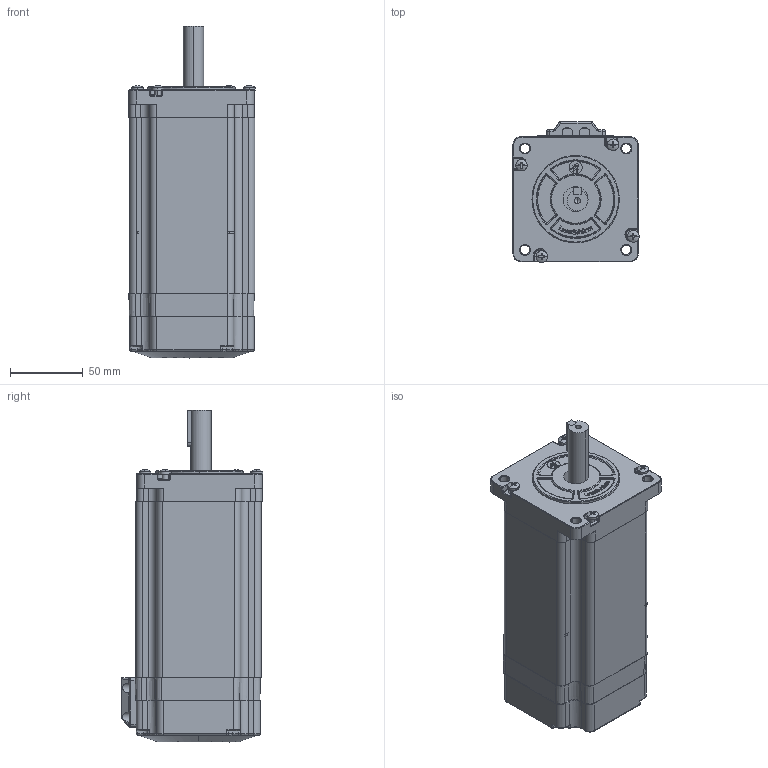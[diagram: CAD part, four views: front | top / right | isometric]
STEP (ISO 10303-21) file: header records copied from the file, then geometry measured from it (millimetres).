
FILE_DESCRIPTION (( 'STEP AP214' ), '1' );
FILE_NAME ('86CME120-BZ.STEP', '2018-07-02T02:28:47', ( 'Microsoft' ), ( 'China' ), 'SwSTEP 2.0', 'SolidWorks 2011', '' );
FILE_SCHEMA (( 'AUTOMOTIVE_DESIGN' ));
Length unit declared in the file: millimetre
Products named in the file (10): 电机压线块（开环闭口）常（后面出电源线）新设计参考创谊-7_Default_Default_Default; 隅赽86HBM80C-1000-7_Default_Default_Default; cross recessed pan head screws gb_GB_CROSS_SCREWS_TYPE1 M4X6-6  H type-N-7_Default_Default_Default; cross recessed pan head screws gb_GB_CROSS_SCREWS_TYPE1 M3X6-6  H type-N-7_Default_Default_Default; 前端盖开模2015-04-02带（LOGO无字版放槽里）-7_Default_Default_Default; 蛌粣86萇儂-7_Default_Default_Default; 瑩种86萇儂-7_Default_Default_Default; 编码器罩多压面(常）非防水（加高1.5mm）修模带LOGO1（开口版）（加柱子）-7_Default_Default_Default; 后端盖（新PCB板常规出线）-7_Default_Default_Default; 86CME120-BZ
Assembly tree (15 placements, depth 2):
  86CME120-BZ
    cross recessed pan head screws gb_GB_CROSS_SCREWS_TYPE1 M4X6-6  H type-N-7_Default_Default_Default  x4
    隅赽86HBM80C-1000-7_Default_Default_Default
    瑩种86萇儂-7_Default_Default_Default
    cross recessed pan head screws gb_GB_CROSS_SCREWS_TYPE1 M3X6-6  H type-N-7_Default_Default_Default  x4
    电机压线块（开环闭口）常（后面出电源线）新设计参考创谊-7_Default_Default_Default
    编码器罩多压面(常）非防水（加高1.5mm）修模带LOGO1（开口版）（加柱子）-7_Default_Default_Default
    后端盖（新PCB板常规出线）-7_Default_Default_Default
    前端盖开模2015-04-02带（LOGO无字版放槽里）-7_Default_Default_Default
    蛌粣86萇儂-7_Default_Default_Default
Bounding box: 86.68 x 96.95 x 227.87 mm (x, y, z)
Volume: 927320.9 mm3; surface area: 166275.5 mm2
Topology: 25 solids, 25 shells, 1565 faces, 4138 edges, 2665 vertices
Faces by surface type: plane 646, cylinder 567, bspline 256, sphere 56, cone 40
Entity records: 69112 total; most frequent: CARTESIAN_POINT 19305, ORIENTED_EDGE 7398, DIRECTION 6591, EDGE_CURVE 3699, VERTEX_POINT 2386, AXIS2_PLACEMENT_3D 2306, LINE 1979, VECTOR 1979
